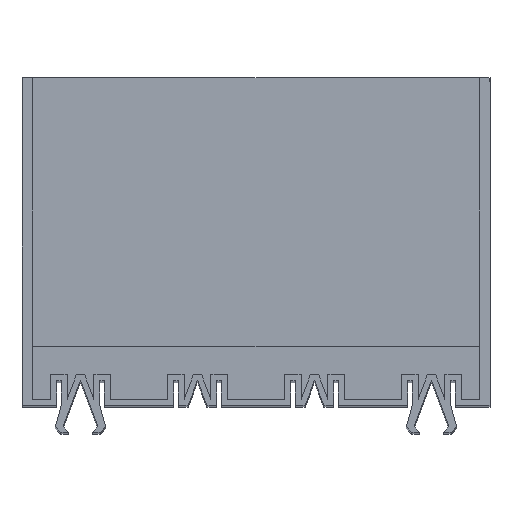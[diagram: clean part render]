
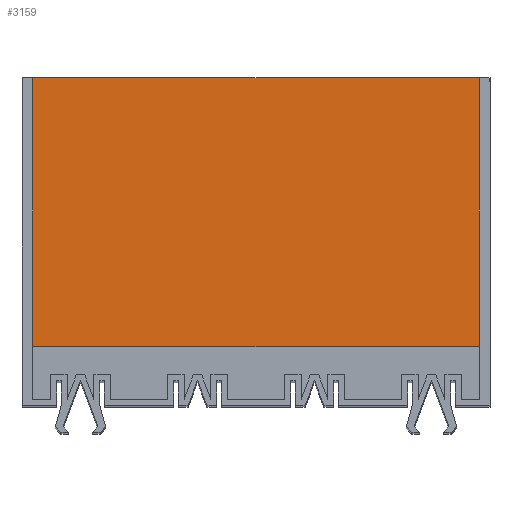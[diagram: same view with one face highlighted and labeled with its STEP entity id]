
A CAD part, top view. The second image highlights one B-rep face of the part: STEP entity #3159.
In plain terms, the highlighted planar face has unit normal (0, 0, 1).
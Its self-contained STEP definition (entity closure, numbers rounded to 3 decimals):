
#187=FACE_OUTER_BOUND('',#351,.T.);
#351=EDGE_LOOP('',(#2837,#2838,#2839,#2840));
#773=LINE('',#4932,#1213);
#789=LINE('',#4963,#1229);
#790=LINE('',#4966,#1230);
#792=LINE('',#4969,#1232);
#1213=VECTOR('',#4048,10.);
#1229=VECTOR('',#4068,10.);
#1230=VECTOR('',#4071,10.);
#1232=VECTOR('',#4075,10.);
#1513=VERTEX_POINT('',#4930);
#1514=VERTEX_POINT('',#4931);
#1527=VERTEX_POINT('',#4961);
#1528=VERTEX_POINT('',#4965);
#1949=EDGE_CURVE('',#1513,#1514,#773,.T.);
#1965=EDGE_CURVE('',#1513,#1527,#789,.T.);
#1966=EDGE_CURVE('',#1527,#1528,#790,.T.);
#1968=EDGE_CURVE('',#1514,#1528,#792,.T.);
#2837=ORIENTED_EDGE('',*,*,#1966,.F.);
#2838=ORIENTED_EDGE('',*,*,#1965,.F.);
#2839=ORIENTED_EDGE('',*,*,#1949,.T.);
#2840=ORIENTED_EDGE('',*,*,#1968,.T.);
#3003=PLANE('',#3322);
#3159=ADVANCED_FACE('',(#187),#3003,.F.);
#3322=AXIS2_PLACEMENT_3D('',#4968,#4073,#4074);
#4048=DIRECTION('',(-1.,0.,0.));
#4068=DIRECTION('',(0.,-1.,0.));
#4071=DIRECTION('',(-1.,0.,0.));
#4073=DIRECTION('center_axis',(0.,0.,-1.));
#4074=DIRECTION('ref_axis',(1.,0.,0.));
#4075=DIRECTION('',(0.,-1.,0.));
#4930=CARTESIAN_POINT('',(34.1,28.,99.));
#4931=CARTESIAN_POINT('',(-4.1,28.,99.));
#4932=CARTESIAN_POINT('',(5.9,28.,99.));
#4961=CARTESIAN_POINT('',(34.1,5.,99.));
#4963=CARTESIAN_POINT('',(34.1,16.5,99.));
#4965=CARTESIAN_POINT('',(-4.1,5.,99.));
#4966=CARTESIAN_POINT('',(5.9,5.,99.));
#4968=CARTESIAN_POINT('Origin',(24.1,16.5,99.));
#4969=CARTESIAN_POINT('',(-4.1,16.5,99.));
